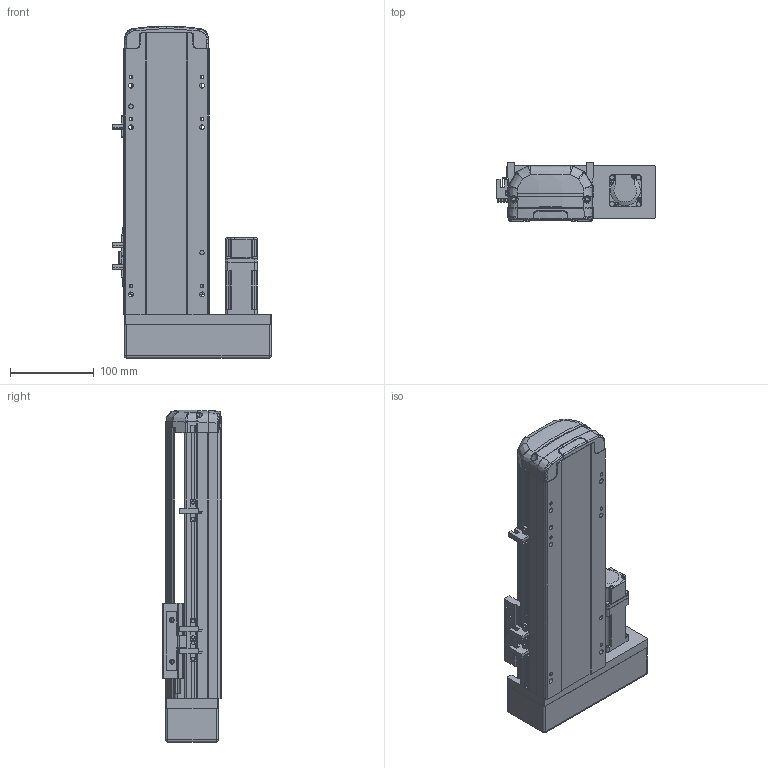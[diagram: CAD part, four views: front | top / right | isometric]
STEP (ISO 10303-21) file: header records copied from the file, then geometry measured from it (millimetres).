
FILE_DESCRIPTION (( 'STEP AP214' ), '1' );
FILE_NAME ('RTH10-XX-150-R-M10-C4.STEP', '2025-10-25T05:51:48', ( 'Microsoft' ), ( 'Microsoft' ), 'SwSTEP 2.0', 'SolidWorks 2018', '' );
FILE_SCHEMA (( 'AUTOMOTIVE_DESIGN' ));
Length unit declared in the file: millimetre
Products named in the file (10): N_RTH12-L-018-裔赽^RTH10-XX-100-R-M10-C4; N_RTH13-L-012覜茼え俋离^RTH10-XX-100-R-M10-C4; N_P10^RTH10-XX-100-R-M10-C4; N_RTH12-L-008萇儂啣^RTH10-XX-100-R-M10-C4; N_RTH12-M-007P-奻裔^RTH10-XX-100-R-M10-C4; N_RTH12-M-011P-臏倰第菁釱^RTH10-XX-100-R-M10-C4; RTH10-XX-150-R-M10-C4; N_RTH12-GY-001P^RTH10-XX-100-R-M10-C4; N_RTH12-GY-004-賑釱^RTH10-XX-100-R-M10-C4; N_OMRON EE-SX672 传感器^RTH10-XX-100-R-M10-C4
Assembly tree (11 placements, depth 2):
  RTH10-XX-150-R-M10-C4
    N_RTH12-M-011P-臏倰第菁釱^RTH10-XX-100-R-M10-C4
    N_RTH13-L-012覜茼え俋离^RTH10-XX-100-R-M10-C4
    N_OMRON EE-SX672 传感器^RTH10-XX-100-R-M10-C4  x3
    N_P10^RTH10-XX-100-R-M10-C4
    N_RTH12-M-007P-奻裔^RTH10-XX-100-R-M10-C4
    N_RTH12-L-008萇儂啣^RTH10-XX-100-R-M10-C4
    N_RTH12-L-018-裔赽^RTH10-XX-100-R-M10-C4
    N_RTH12-GY-004-賑釱^RTH10-XX-100-R-M10-C4
    N_RTH12-GY-001P^RTH10-XX-100-R-M10-C4
Bounding box: 190 x 70 x 397.31 mm (x, y, z)
Volume: 2095018 mm3; surface area: 342642.7 mm2
Topology: 10 solids, 12 shells, 1880 faces, 5224 edges, 3425 vertices
Faces by surface type: plane 939, bspline 472, cylinder 434, cone 29, sphere 4, torus 2
Entity records: 56104 total; most frequent: CARTESIAN_POINT 22649, ORIENTED_EDGE 7520, DIRECTION 5706, EDGE_CURVE 3766, VERTEX_POINT 2469, LINE 1990, VECTOR 1990, AXIS2_PLACEMENT_3D 1858
